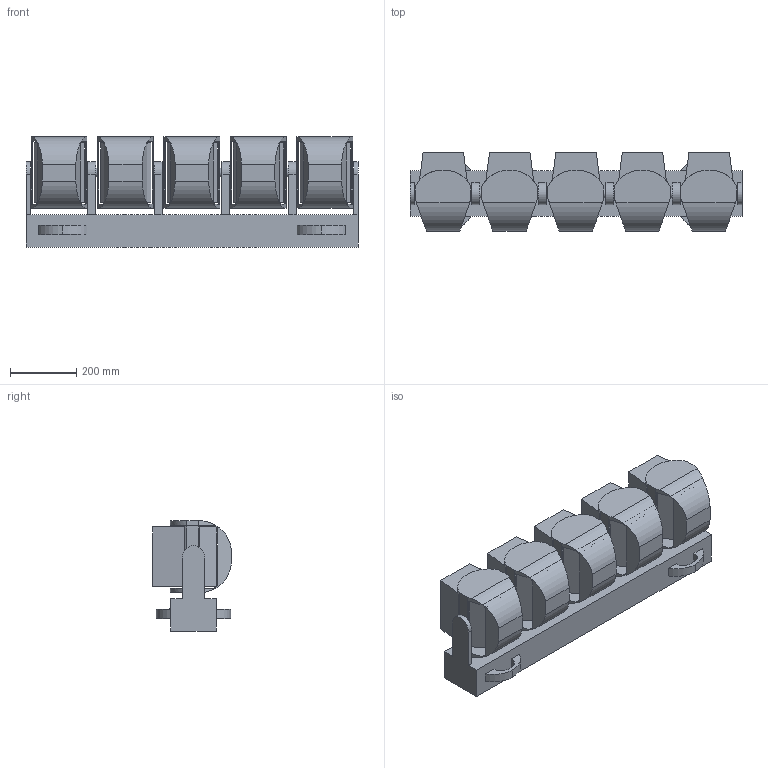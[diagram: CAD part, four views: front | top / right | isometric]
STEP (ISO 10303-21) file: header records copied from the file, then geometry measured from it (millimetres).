
FILE_DESCRIPTION(/* description */ ('Unknown'),/* implementation_level */ '2;1');
FILE_NAME(/* name */ 'COLORADOPXLCURVE5_90.stp',/* time_stamp */ '2026-02-26T12:31:15-05:00',/* author */ ('chenry'),/* organization */ (''),/* preprocessor_version */ 'ST-DEVELOPER v20',/* originating_system */ 'Autodesk Inventor 2024',/* authorisation */ '');
FILE_SCHEMA (('AUTOMOTIVE_DESIGN { 1 0 10303 214 3 1 1 }'));
Length unit declared in the file: millimetre
Products named in the file (17): C-5200 LED BAR; base; TILT; TILT (4); TILT (2); TILT (3); TILT (1); PAN; headPAN 5 (1); PAN (1); headPAN 4 (1); PAN (4); headPAN 3; PAN (2); headPAN 2 (1); PAN (3); headPAN 1
Assembly tree (17 placements, depth 3):
  C-5200 LED BAR
    base
    TILT
      TILT (1)  x2
      TILT (4)
      TILT (2)
      TILT (3)
    PAN
      headPAN 5 (1)
    PAN (1)
      headPAN 4 (1)
    PAN (4)
      headPAN 3
    PAN (2)
      headPAN 2 (1)
    PAN (3)
      headPAN 1
Bounding box: 999 x 235.61 x 331.23 mm (x, y, z)
Volume: 40456347.4 mm3; surface area: 2377780.5 mm2
Topology: 11 solids, 11 shells, 305 faces, 787 edges, 524 vertices
Faces by surface type: plane 218, cylinder 87
Full cylindrical faces by diameter (mm): 14 x10, 26.5 x15
Entity records: 9134 total; most frequent: DIRECTION 1505, CARTESIAN_POINT 1493, ORIENTED_EDGE 1418, EDGE_CURVE 709, LINE 537, VECTOR 537, AXIS2_PLACEMENT_3D 484, VERTEX_POINT 472
